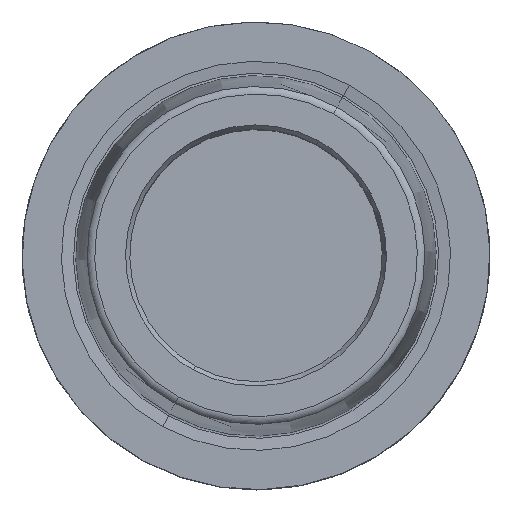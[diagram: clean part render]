
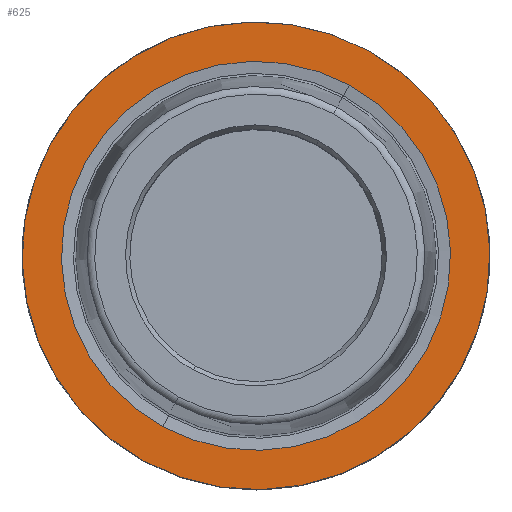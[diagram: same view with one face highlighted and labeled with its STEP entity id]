
A CAD part, top view. The second image highlights one B-rep face of the part: STEP entity #625.
In plain terms, the highlighted planar face has unit normal (0, 0, 1).
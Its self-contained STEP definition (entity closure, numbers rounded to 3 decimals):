
#562=AXIS2_PLACEMENT_3D('Circle Axis2P3D',#560,#561,$) ;
#588=AXIS2_PLACEMENT_3D('Circle Axis2P3D',#586,#587,$) ;
#601=AXIS2_PLACEMENT_3D('Plane Axis2P3D',#598,#599,#600) ;
#605=AXIS2_PLACEMENT_3D('Circle Axis2P3D',#603,#604,$) ;
#614=AXIS2_PLACEMENT_3D('Circle Axis2P3D',#612,#613,$) ;
#560=CARTESIAN_POINT('Axis2P3D Location',(0.,0.,0.)) ;
#564=CARTESIAN_POINT('Vertex',(12.561,22.993,0.)) ;
#566=CARTESIAN_POINT('Vertex',(-12.561,-22.993,0.)) ;
#586=CARTESIAN_POINT('Axis2P3D Location',(0.,0.,0.)) ;
#598=CARTESIAN_POINT('Axis2P3D Location',(0.,24.321,0.)) ;
#603=CARTESIAN_POINT('Axis2P3D Location',(0.,0.,0.)) ;
#607=CARTESIAN_POINT('Vertex',(15.102,27.644,0.)) ;
#609=CARTESIAN_POINT('Vertex',(-15.102,-27.644,0.)) ;
#612=CARTESIAN_POINT('Axis2P3D Location',(0.,0.,0.)) ;
#561=DIRECTION('Axis2P3D Direction',(0.,0.,1.)) ;
#587=DIRECTION('Axis2P3D Direction',(0.,0.,1.)) ;
#599=DIRECTION('Axis2P3D Direction',(0.,0.,-1.)) ;
#600=DIRECTION('Axis2P3D XDirection',(1.,0.,0.)) ;
#604=DIRECTION('Axis2P3D Direction',(0.,0.,-1.)) ;
#613=DIRECTION('Axis2P3D Direction',(0.,0.,-1.)) ;
#618=ORIENTED_EDGE('',*,*,#611,.F.) ;
#619=ORIENTED_EDGE('',*,*,#616,.F.) ;
#622=ORIENTED_EDGE('',*,*,#590,.T.) ;
#623=ORIENTED_EDGE('',*,*,#568,.T.) ;
#624=FACE_BOUND('',#621,.T.) ;
#625=ADVANCED_FACE('NOCUT',(#620,#624),#602,.F.) ;
#563=CIRCLE('generated circle',#562,26.2) ;
#589=CIRCLE('generated circle',#588,26.2) ;
#606=CIRCLE('generated circle',#605,31.5) ;
#615=CIRCLE('generated circle',#614,31.5) ;
#568=EDGE_CURVE('',#565,#567,#563,.F.) ;
#590=EDGE_CURVE('',#567,#565,#589,.F.) ;
#611=EDGE_CURVE('',#608,#610,#606,.T.) ;
#616=EDGE_CURVE('',#610,#608,#615,.T.) ;
#617=EDGE_LOOP('',(#618,#619)) ;
#621=EDGE_LOOP('',(#622,#623)) ;
#620=FACE_OUTER_BOUND('',#617,.T.) ;
#602=PLANE('',#601) ;
#565=VERTEX_POINT('',#564) ;
#567=VERTEX_POINT('',#566) ;
#608=VERTEX_POINT('',#607) ;
#610=VERTEX_POINT('',#609) ;
